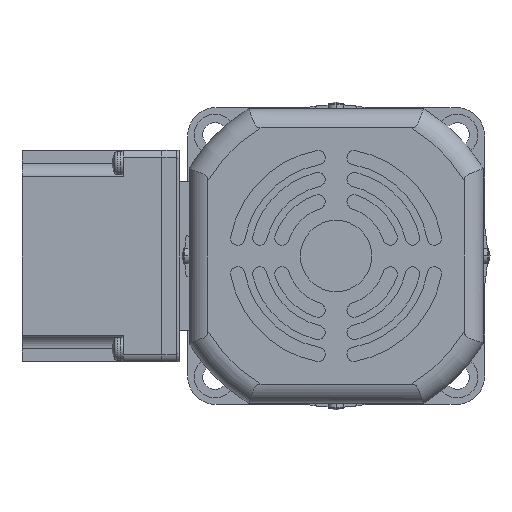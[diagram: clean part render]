
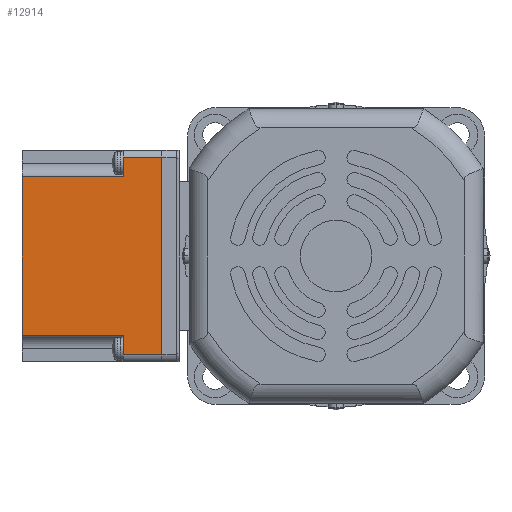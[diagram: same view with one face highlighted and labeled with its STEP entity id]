
A CAD part, left-side view. The second image highlights one B-rep face of the part: STEP entity #12914.
In plain terms, the highlighted planar face has unit normal (-1, 0, 0).
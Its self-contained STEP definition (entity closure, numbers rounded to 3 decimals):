
#353 = AXIS2_PLACEMENT_3D ( 'NONE', #12286, #7700, #5501 ) ;
#392 = EDGE_CURVE ( 'NONE', #6541, #11387, #1763, .T. ) ;
#495 = ORIENTED_EDGE ( 'NONE', *, *, #9871, .T. ) ;
#816 = LINE ( 'NONE', #13023, #9281 ) ;
#905 = CARTESIAN_POINT ( 'NONE',  ( -247., 54.5, 27.75 ) ) ;
#962 = VECTOR ( 'NONE', #10666, 1000. ) ;
#1763 = LINE ( 'NONE', #6224, #962 ) ;
#2141 = CARTESIAN_POINT ( 'NONE',  ( -247., 54.5, -27.75 ) ) ;
#2442 = VERTEX_POINT ( 'NONE', #2141 ) ;
#2913 = CARTESIAN_POINT ( 'NONE',  ( -247., 54.5, 18.5 ) ) ;
#3229 = VERTEX_POINT ( 'NONE', #13570 ) ;
#3248 = FACE_OUTER_BOUND ( 'NONE', #10089, .T. ) ;
#3413 = ORIENTED_EDGE ( 'NONE', *, *, #8936, .T. ) ;
#3502 = LINE ( 'NONE', #10121, #13380 ) ;
#3535 = PLANE ( 'NONE',  #353 ) ;
#3871 = CARTESIAN_POINT ( 'NONE',  ( -247., 54.5, -34.595 ) ) ;
#4065 = VERTEX_POINT ( 'NONE', #8686 ) ;
#4261 = EDGE_CURVE ( 'NONE', #8872, #3229, #11293, .T. ) ;
#4377 = CARTESIAN_POINT ( 'NONE',  ( -247., 65.505, -34.595 ) ) ;
#4566 = CARTESIAN_POINT ( 'NONE',  ( -247., 90., 37. ) ) ;
#4898 = CARTESIAN_POINT ( 'NONE',  ( -247., 54.5, 34.595 ) ) ;
#5440 = ORIENTED_EDGE ( 'NONE', *, *, #6699, .F. ) ;
#5501 = DIRECTION ( 'NONE',  ( 0., 0., 1. ) ) ;
#5545 = CARTESIAN_POINT ( 'NONE',  ( -247., 54.5, 18.5 ) ) ;
#5977 = ORIENTED_EDGE ( 'NONE', *, *, #10575, .T. ) ;
#6224 = CARTESIAN_POINT ( 'NONE',  ( -247., 65.505, 34.595 ) ) ;
#6317 = EDGE_CURVE ( 'NONE', #11387, #13997, #8104, .T. ) ;
#6541 = VERTEX_POINT ( 'NONE', #8243 ) ;
#6699 = EDGE_CURVE ( 'NONE', #6541, #3229, #3502, .T. ) ;
#7281 = VECTOR ( 'NONE', #7946, 1000. ) ;
#7700 = DIRECTION ( 'NONE',  ( -1., 0., 0. ) ) ;
#7946 = DIRECTION ( 'NONE',  ( 0., -1., 0. ) ) ;
#8077 = VERTEX_POINT ( 'NONE', #12755 ) ;
#8104 = LINE ( 'NONE', #5545, #14383 ) ;
#8170 = VECTOR ( 'NONE', #12845, 1000. ) ;
#8225 = ORIENTED_EDGE ( 'NONE', *, *, #392, .T. ) ;
#8243 = CARTESIAN_POINT ( 'NONE',  ( -247., 41.01, 34.595 ) ) ;
#8397 = LINE ( 'NONE', #2913, #8170 ) ;
#8686 = CARTESIAN_POINT ( 'NONE',  ( -247., 90., 27.75 ) ) ;
#8872 = VERTEX_POINT ( 'NONE', #3871 ) ;
#8936 = EDGE_CURVE ( 'NONE', #2442, #8872, #8397, .T. ) ;
#9018 = EDGE_CURVE ( 'NONE', #8077, #2442, #14308, .T. ) ;
#9183 = ORIENTED_EDGE ( 'NONE', *, *, #6317, .T. ) ;
#9281 = VECTOR ( 'NONE', #10688, 1000. ) ;
#9871 = EDGE_CURVE ( 'NONE', #13997, #4065, #816, .T. ) ;
#10089 = EDGE_LOOP ( 'NONE', ( #495, #5977, #11716, #3413, #12486, #5440, #8225, #9183 ) ) ;
#10121 = CARTESIAN_POINT ( 'NONE',  ( -247., 41.01, 37. ) ) ;
#10575 = EDGE_CURVE ( 'NONE', #4065, #8077, #13335, .T. ) ;
#10666 = DIRECTION ( 'NONE',  ( 0., 1., 0. ) ) ;
#10688 = DIRECTION ( 'NONE',  ( 0., 1., 0. ) ) ;
#10954 = VECTOR ( 'NONE', #13133, 1000. ) ;
#11130 = DIRECTION ( 'NONE',  ( 0., 0., -1. ) ) ;
#11293 = LINE ( 'NONE', #4377, #7281 ) ;
#11359 = DIRECTION ( 'NONE',  ( 0., 0., -1. ) ) ;
#11387 = VERTEX_POINT ( 'NONE', #4898 ) ;
#11716 = ORIENTED_EDGE ( 'NONE', *, *, #9018, .T. ) ;
#12286 = CARTESIAN_POINT ( 'NONE',  ( -247., 90., 37. ) ) ;
#12486 = ORIENTED_EDGE ( 'NONE', *, *, #4261, .T. ) ;
#12554 = DIRECTION ( 'NONE',  ( 0., 0., -1. ) ) ;
#12755 = CARTESIAN_POINT ( 'NONE',  ( -247., 90., -27.75 ) ) ;
#12845 = DIRECTION ( 'NONE',  ( 0., 0., -1. ) ) ;
#12914 = ADVANCED_FACE ( 'NONE', ( #3248 ), #3535, .T. ) ;
#13023 = CARTESIAN_POINT ( 'NONE',  ( -247., 72.25, 27.75 ) ) ;
#13133 = DIRECTION ( 'NONE',  ( 0., -1., 0. ) ) ;
#13335 = LINE ( 'NONE', #4566, #13956 ) ;
#13380 = VECTOR ( 'NONE', #11359, 1000. ) ;
#13570 = CARTESIAN_POINT ( 'NONE',  ( -247., 41.01, -34.595 ) ) ;
#13956 = VECTOR ( 'NONE', #11130, 1000. ) ;
#13997 = VERTEX_POINT ( 'NONE', #905 ) ;
#14158 = CARTESIAN_POINT ( 'NONE',  ( -247., 72.25, -27.75 ) ) ;
#14308 = LINE ( 'NONE', #14158, #10954 ) ;
#14383 = VECTOR ( 'NONE', #12554, 1000. ) ;
